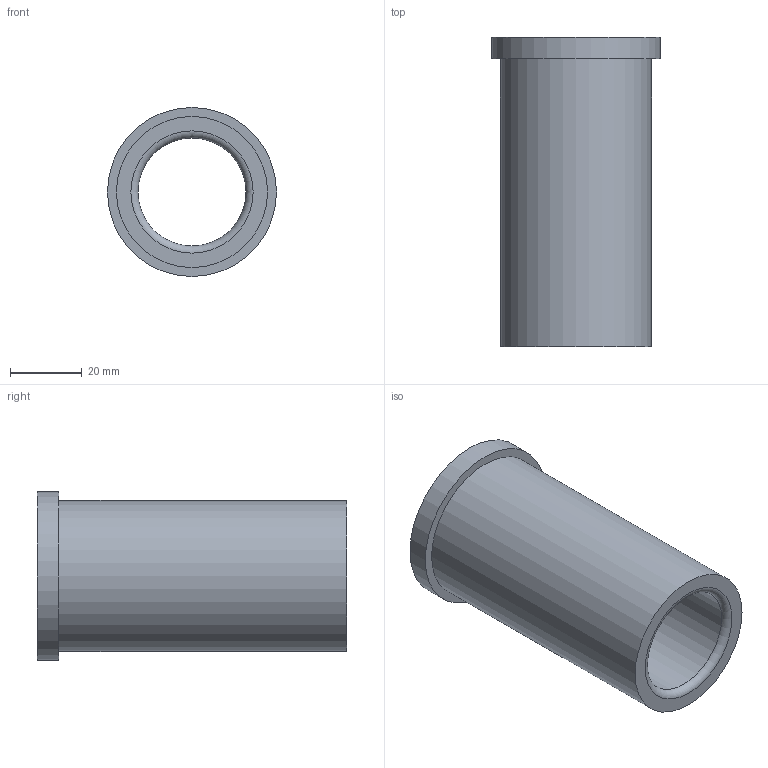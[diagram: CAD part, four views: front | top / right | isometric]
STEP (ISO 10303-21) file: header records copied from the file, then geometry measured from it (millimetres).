
FILE_DESCRIPTION(/* description */ ('STEP AP214'),/* implementation_level */ '2;1');
FILE_NAME(/* name */ '03_12_17856',/* time_stamp */ '2023-06-15T11:35:39+02:00',/* author */ ('License CC BY-ND 4.0'),/* organization */ ('CADENAS'),/* preprocessor_version */ 'ST-DEVELOPER v19.3',/* originating_system */ 'PARTsolutions',/* authorisation */ ' ');
FILE_SCHEMA (('AUTOMOTIVE_DESIGN {1 0 10303 214 3 1 1}'));
Length unit declared in the file: millimetre
Products named in the file (1): VA_Bushing_17856
Bounding box: 47 x 86 x 47 mm (x, y, z)
Volume: 59795.8 mm3; surface area: 21475.7 mm2
Topology: 1 solids, 1 shells, 10 faces, 16 edges, 10 vertices
Faces by surface type: cylinder 4, plane 4, torus 2
Full cylindrical faces by diameter (mm): 30 x1, 30.6 x1, 42 x1, 47 x1
Entity records: 302 total; most frequent: DIRECTION 42, CARTESIAN_POINT 31, AXIS2_PLACEMENT_3D 21, ORIENTED_EDGE 20, EDGE_LOOP 20, FACE_BOUND 20, EDGE_CURVE 10, VERTEX_POINT 10
